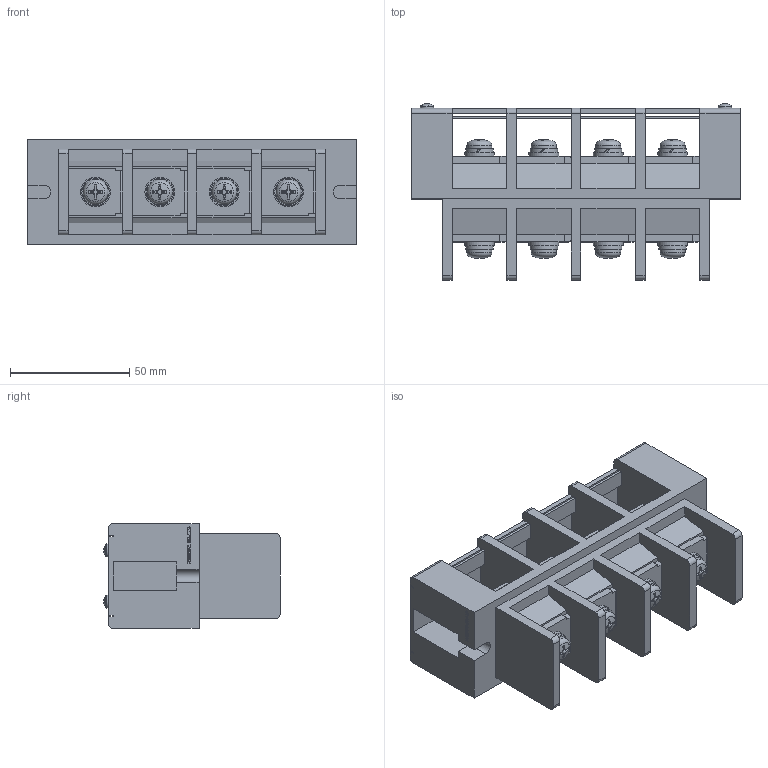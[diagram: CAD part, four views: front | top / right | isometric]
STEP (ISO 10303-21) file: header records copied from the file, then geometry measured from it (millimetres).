
FILE_DESCRIPTION(/* description */ ('Alibre Inc.'),/* implementation_level */ '2;1');
FILE_NAME(/* name */ 'export0',/* time_stamp */ '2016-04-05T18:10:07+09:00',/* author */ (''),/* organization */ (''),/* preprocessor_version */ 'ST-DEVELOPER v14',/* originating_system */ 'Alibre',/* authorisation */ '');
FILE_SCHEMA (('CONFIG_CONTROL_DESIGN'));
Length unit declared in the file: centimetre
Products named in the file (1): ID_1
Bounding box: 138 x 73.94 x 44 mm (x, y, z)
Volume: 159475 mm3; surface area: 72422.1 mm2
Topology: 6 solids, 8 shells, 758 faces, 2083 edges, 1360 vertices
Faces by surface type: plane 534, cylinder 104, bspline 52, cone 48, torus 10, sphere 10
Full cylindrical faces by diameter (mm): 3 x4, 5.5 x2, 6 x8, 8 x8, 10.5 x8, 12.5 x8
Entity records: 22866 total; most frequent: CARTESIAN_POINT 4794, ORIENTED_EDGE 4026, DIRECTION 3000, EDGE_CURVE 2013, VERTEX_POINT 1346, VECTOR 1322, LINE 1322, AXIS2_PLACEMENT_3D 1102
